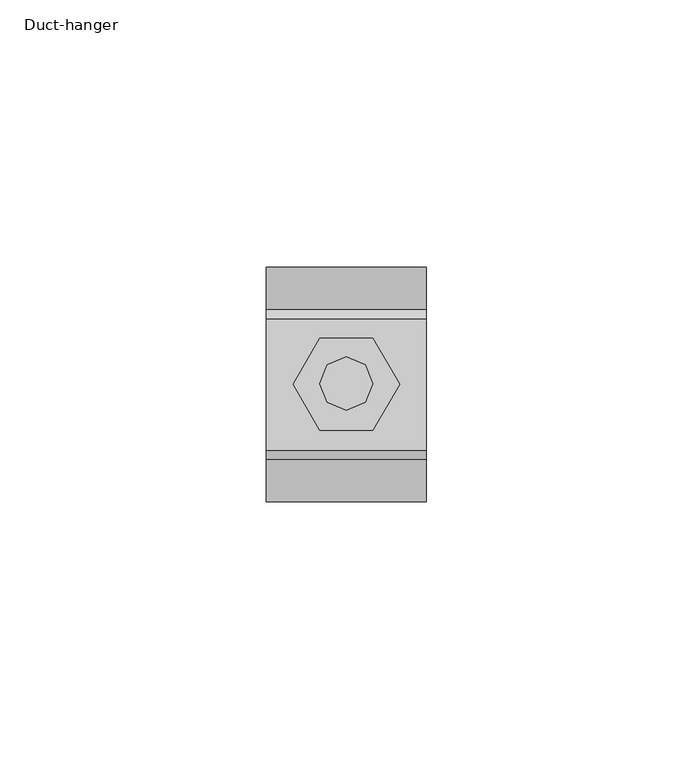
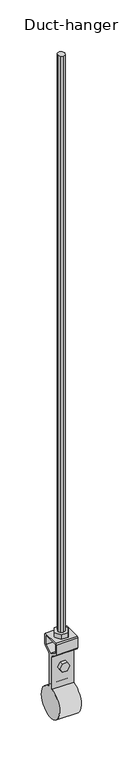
"""IFC4 building model written with IfcOpenShell, lengths in millimetres: proxy geometry, Duct-hanger : Φ44."""

from ifc_helpers import new_model, si_unit, point, frame, frame_2d, origin, place, context, project, spatial, polyline, circle_curve, trimmed, segment, composite_curve, outline, extrude, source, transform, mapped, element, save


def duct_hanger_2791b4bb(model_context):
    return source(origin(), model_context, "Body", "SweptSolid", [
        extrude(outline(polyline([(3.5351563, 3.5351563), (5.0003052, 0.0), (3.5351563, -3.5351563), (0.0, -5.0), (-3.5354614, -3.5351563), (-5.0, 0.0), (-3.5354614, 3.5351563), (0.0, 5.0), (3.5351563, 3.5351563)])), frame((0.0, 0.0, -855.2255775), z_axis=(0.0, 0.0, 1.0), x_axis=(1.0, 0.0, 0.0)), (0.0, 0.0, 1.0), 855.2255775),
        extrude(outline(polyline([(5.0, 8.659668), (10.0, 0.0), (5.0, -8.659668), (-5.0, -8.659668), (-10.0, 0.0), (-5.0, 8.659668), (5.0, 8.659668)])), frame((0.0, 0.0, -855.2255775), z_axis=(0.0, 0.0, 1.0), x_axis=(1.0, 0.0, 0.0)), (0.0, 0.0, 1.0), 6.6101074),
        extrude(outline(polyline([(-892.2409072, -3.5931396), (-898.4643569, -7.1862793), (-904.6878067, -3.5931396), (-904.6878067, 3.5931396), (-898.4643569, 7.1862793), (-892.2409072, 3.5931396), (-892.2409072, -3.5931396)])), frame((0.0, -8.2446289, 0.0), z_axis=(0.0, 1.0, 0.0), x_axis=(0.0, 0.0, 1.0)), (0.0, 0.0, 1.0), 16.4892578),
        extrude(outline(composite_curve([segment(polyline([(14.0234375, -856.8942787), (14.0234375, -871.5439369), (12.8845215, -873.6102821), (4.6337891, -878.8181068), (3.494873, -880.8850624), (3.494873, -928.4643569)]), True, "CONTINUOUS"), segment(trimmed(circle_curve(frame_2d((0.0, -950.1849891)), 22.0), [point((3.494873, -928.4643569))], [point((-3.494873, -928.4643569))], False, "CARTESIAN"), True, "CONTINUOUS"), segment(polyline([(-3.494873, -928.4643569), (-3.494873, -880.8850624), (-4.6337891, -878.8181068), (-12.8845215, -873.6102821), (-14.0234375, -871.5439369), (-14.0234375, -856.8942787), (-12.3547363, -855.2255775), (12.3547363, -855.2255775), (14.0234375, -856.8942787)]), True, "CONTINUOUS")], self_intersect=False), holes=[polyline([(0.0, -877.4919538), (10.7531738, -870.7053138), (10.7531738, -858.4790565), (-10.7531738, -858.4790565), (-10.7531738, -870.7053138), (0.0, -877.4919538)])]), frame((-15.0, 0.0, 0.0), z_axis=(1.0, 0.0, 0.0), x_axis=(0.0, 1.0, 0.0)), (0.0, 0.0, 1.0), 30.0),
    ])


if __name__ == "__main__":
    model = new_model("IFC4")
    model_context = context("Model", 3, world=origin())
    ifc_project = project(units=[si_unit("LENGTHUNIT", "METRE", prefix="MILLI")], contexts=[model_context])
    site = spatial("IfcSite", under=ifc_project)
    building = spatial("IfcBuilding", under=site)
    placement = place(None, origin())
    duct_hanger_shape = duct_hanger_2791b4bb(model_context)
    element("IfcBuildingElementProxy", 1, Name="Duct-hanger : Φ44", ObjectType="Duct-hanger : Φ44", at=placement, inside=building, context=model_context, shape_type="MappedRepresentation", body=[
        mapped(duct_hanger_shape, transform((0.0, 0.0, 0.0), x_axis=(1.0, 0.0, 0.0), y_axis=(0.0, 1.0, 0.0), z_axis=(0.0, 0.0, 1.0))),
    ])
    save(model, "model.ifc")
